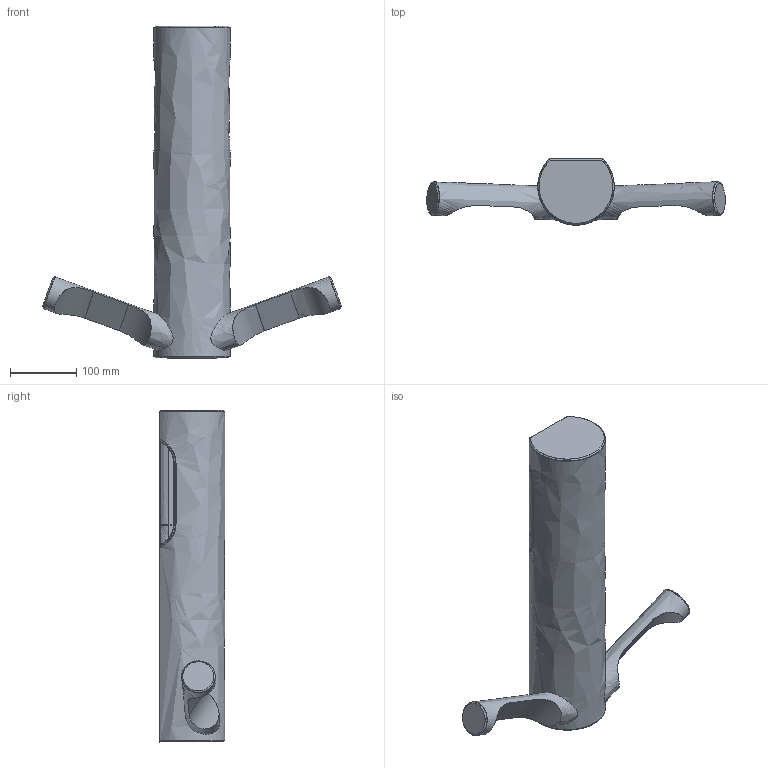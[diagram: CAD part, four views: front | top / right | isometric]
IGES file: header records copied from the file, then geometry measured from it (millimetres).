
Global section: file name: \\global.corp\data\local\MY\departments\VDI\MYVDI-Desktops\asamzaini\Desktop\9KJ CAD\9KJ 3D\SB-159965_AA - 9KJ WITHOUT CONDUIT.igs; native system: NX V11.0; preprocessor: SIEMENS PLM Software NX 11.0; date: 20191113.141547; units: millimetre
Bounding box: 449.26 x 99.02 x 499.5 mm (x, y, z)
Surface area: 245298.7 mm2 (no closed solid volume)
Topology: 0 solids, 0 shells, 146 faces, 1857 edges, 2513 vertices
Faces by surface type: bspline 138, offset 8
